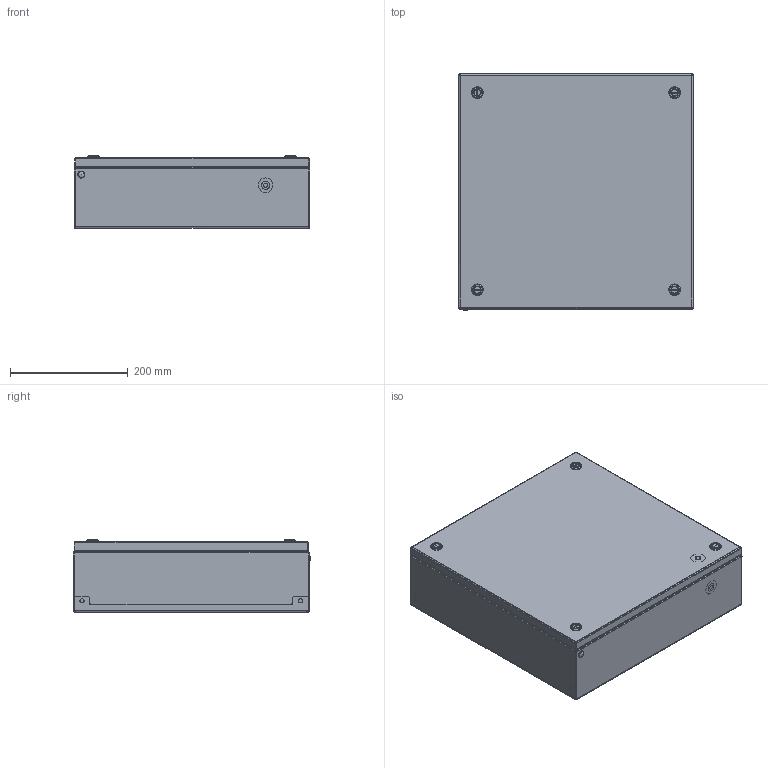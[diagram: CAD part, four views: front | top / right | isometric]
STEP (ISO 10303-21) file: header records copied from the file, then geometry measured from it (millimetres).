
FILE_DESCRIPTION (( 'STEP AP214' ), '1' );
FILE_NAME ('BCS 40.40.12 Êîðîáêà.STEP', '2023-03-14T05:13:03', ( '' ), ( '' ), 'SwSTEP 2.0', 'SolidWorks 2019', '' );
FILE_SCHEMA (( 'AUTOMOTIVE_DESIGN' ));
Length unit declared in the file: millimetre
Products named in the file (1): BCS 40.40.12 Êîðîáêà
Bounding box: 400 x 402.5 x 123 mm (x, y, z)
Volume: 986487.6 mm3; surface area: 1466001 mm2
Topology: 36 solids, 36 shells, 2066 faces, 5207 edges, 3284 vertices
Faces by surface type: plane 1121, cylinder 640, cone 122, bspline 118, torus 48, sphere 17
Entity records: 99203 total; most frequent: CARTESIAN_POINT 27461, ORIENTED_EDGE 10376, DIRECTION 9602, EDGE_CURVE 5188, VERTEX_POINT 3282, AXIS2_PLACEMENT_3D 3231, LINE 3140, VECTOR 3140
